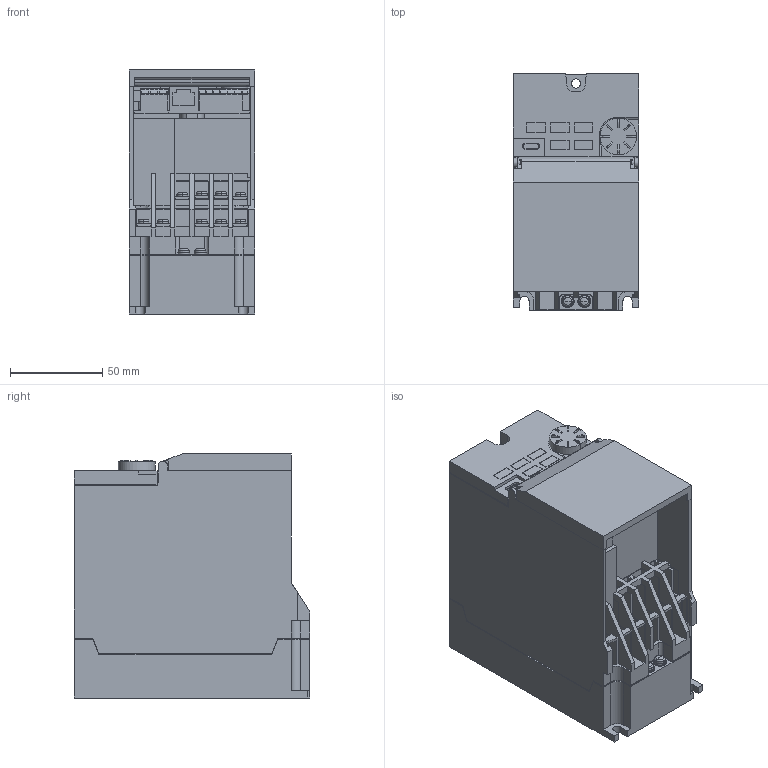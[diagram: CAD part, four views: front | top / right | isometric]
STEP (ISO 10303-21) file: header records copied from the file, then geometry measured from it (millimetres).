
FILE_DESCRIPTION((''),'2;1');
FILE_NAME('3D-INV-53_02_ASM','2024-11-27T16:16:04',('CT89920'),(''),'CREO PARAMETRIC BY PTC INC, 2022281','CREO PARAMETRIC BY PTC INC, 2022281','');
FILE_SCHEMA(('CONFIG_CONTROL_DESIGN','SHAPE_APPEARANCE_LAYERS_GROUPS'));
Length unit declared in the file: millimetre
Products named in the file (7): 3D-BASE-53_02; 3D-TE_SHORT-51_01; 3D-TE_NEJI-M3_5X8-ZA7; 3D-TE-NEJI-53_01_ASM; 3D-SW-PW-P-M3_5X10; 3D-S_COV-D80-0_75; 3D-INV-53_02_ASM
Assembly tree (15 placements, depth 3):
  3D-INV-53_02_ASM
    3D-BASE-53_02
    3D-TE-NEJI-53_01_ASM
      3D-TE_SHORT-51_01
      3D-TE_NEJI-M3_5X8-ZA7  x9
    3D-SW-PW-P-M3_5X10  x2
    3D-S_COV-D80-0_75
Bounding box: 68 x 128 x 132.5 mm (x, y, z)
Volume: 424475.3 mm3; surface area: 166604.6 mm2
Topology: 14 solids, 14 shells, 902 faces, 2422 edges, 1575 vertices
Faces by surface type: plane 720, cylinder 136, torus 22, extrusion 16, cone 4, sphere 4
Entity records: 30526 total; most frequent: CARTESIAN_POINT 5085, ORIENTED_EDGE 4328, DIRECTION 3948, EDGE_CURVE 2164, VECTOR 1924, LINE 1908, VERTEX_POINT 1412, AXIS2_PLACEMENT_3D 1012
